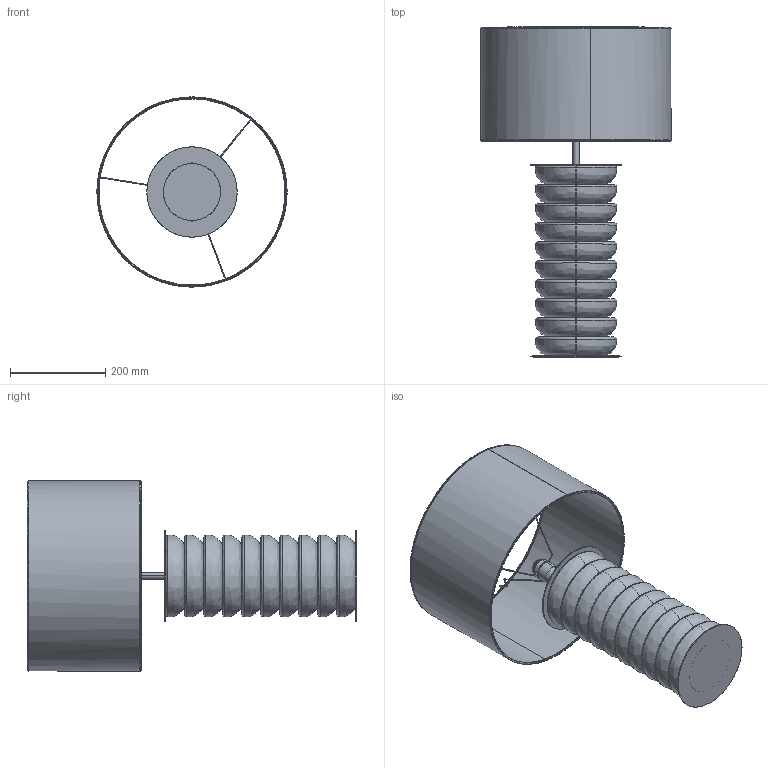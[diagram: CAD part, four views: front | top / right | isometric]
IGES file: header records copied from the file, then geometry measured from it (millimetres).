
Start section: SolidWorks IGES file using analytic representation for surfaces
Global section: file name: C:\Users\Agustin\Desktop\COMPARTIDA\NUEVO PRODUCTO\VALDITARO\3D\DENTE_NAC151.IGS; native system: SolidWorks 2023; preprocessor: SolidWorks 2023; author: Agustin; date: 260618.134611; units: millimetre
Bounding box: 399.95 x 694 x 399.99 mm (x, y, z)
Surface area: 1359500.1 mm2 (no closed solid volume)
Topology: 0 solids, 0 shells, 228 faces, 4645 edges, 4645 vertices
Faces by surface type: bspline 224, revolution 4
